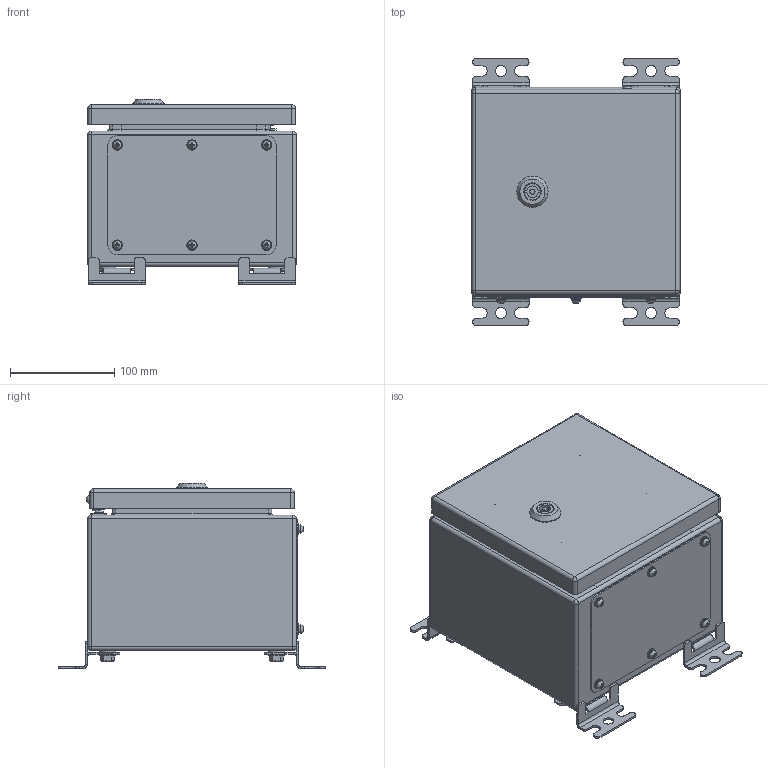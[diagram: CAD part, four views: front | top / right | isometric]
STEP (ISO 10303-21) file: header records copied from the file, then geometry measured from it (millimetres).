
FILE_DESCRIPTION(('STEP AP242'), '1');
FILE_NAME('400 ﾙﾌﾏ-1 (IP-56)', '', ('UNSPECIFIED'), ('UNSPECIFIED'), 'C3D Converter', 'C3D Toolkit', '');
FILE_SCHEMA(('AP242_MANAGED_MODEL_BASED_3D_ENGINEERING_MIM_LF { 1 0 10303 442 1 1 4 }'));
Length unit declared in the file: millimetre
Products named in the file (52): ЩМП-1-ЛФ СБ; 410-ЛФ; 420; 421; 411-Ф; 430-Л; 431-Л; 490; 491; 401.01; 405; 405.01; 440-Ф; 441-Ф; 406; 404; 402; 403; 450.01; 451.01; ЦИУЛ.210677.00.03-03; 452.01
Assembly tree (124 placements, depth 4):
  ЩМП-1-ЛФ СБ
    410-ЛФ
      420
        421
        (unnamed)  x4
        (unnamed)
      411-Ф
      430-Л
        431-Л
        (unnamed)  x6
    490  x2
      491
      (unnamed)
      (unnamed)
      (unnamed)
      (unnamed)
      (unnamed)
    490  x2
      491
      (unnamed)
      (unnamed)
      (unnamed)
      (unnamed)
      (unnamed)
    401.01
    (unnamed)  x4
    (unnamed)  x4
    (unnamed)  x4
    (unnamed)  x4
    405
      (unnamed)
    405.01
      (unnamed)
    (unnamed)  x8
    440-Ф
      441-Ф
      (unnamed)
      (unnamed)  x4
      406  x2
    404  x2
    (unnamed)  x2
    402  x2
    (unnamed)  x4
    (unnamed)  x4
    (unnamed)
      (unnamed)
      (unnamed)
      (unnamed)
      (unnamed)
      (unnamed)
    (unnamed)
    403
    (unnamed)  x6
    (unnamed)  x6
    450.01
      451.01
      (unnamed)  x3
      (unnamed)  x2
      (unnamed)  x2
      (unnamed)  x3
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Bounding box: 200 x 256 x 178.1 mm (x, y, z)
Volume: 566037.5 mm3; surface area: 658077.5 mm2
Topology: 129 solids, 129 shells, 2342 faces, 5456 edges, 3435 vertices
Faces by surface type: plane 1362, cylinder 633, cone 232, sphere 35, torus 33, extrusion 27, bspline 20
Full cylindrical faces by diameter (mm): 0.5 x4, 2.6 x4, 3.3 x1, 3.5 x12, 4 x3, 4.134 x9, 4.2 x3, 4.917 x4, 5 x12, 5.3 x2, 5.5 x15, 5.75 x3, 5.8 x1, 6 x25, 6.38 x6, 6.4 x10, 6.647 x8, 6.7 x4, 7 x4, 7.3 x4, 7.4 x1, 7.5 x4, 7.74 x6, 8 x14, 8.376 x4, 8.4 x8, 8.5 x23, 8.7 x6, 9 x14, 10 x14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
Entity records: 72164 total; most frequent: CARTESIAN_POINT 36611, DIRECTION 5850, ORIENTED_EDGE 5618, EDGE_CURVE 2809, AXIS2_PLACEMENT_3D 2121, VERTEX_POINT 1873, VECTOR 1608, LINE 1581
